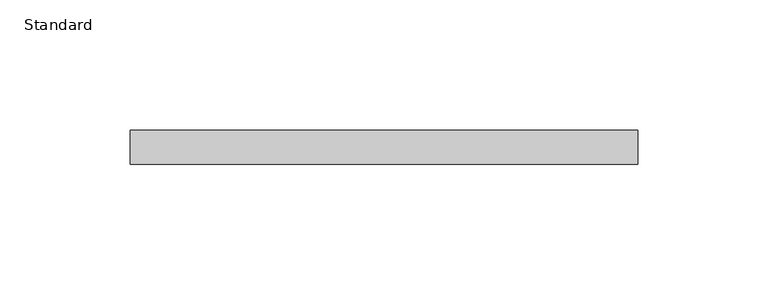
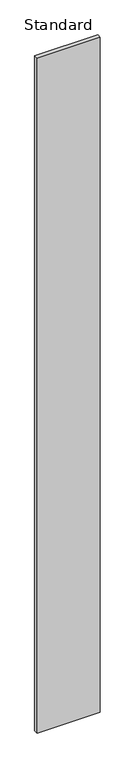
"""IFC4 building model written with IfcOpenShell, lengths in millimetres: furniture geometry, X_Partition-Compact Laminate-Duracube-Rectangular : Standard."""

from ifc_helpers import new_model, si_unit, frame, origin, place, context, project, spatial, polyline, outline, extrude, source, transform, mapped, element, save


def standard_ea3ccfe1(model_context):
    return source(origin(), model_context, "Body", "SweptSolid", [
        extrude(outline(polyline([(141.9503264, 0.0), (141.9503264, -13.0), (-52.5496736, -13.0), (-52.5496736, 0.0), (141.9503264, 0.0)])), frame((0.0, 0.0, 200.0), z_axis=(0.0, 0.0, 1.0), x_axis=(1.0, 0.0, 0.0)), (0.0, 0.0, 1.0), 2198.0),
    ])


if __name__ == "__main__":
    model = new_model("IFC4")
    model_context = context("Model", 3, world=origin())
    ifc_project = project(units=[si_unit("LENGTHUNIT", "METRE", prefix="MILLI")], contexts=[model_context])
    site = spatial("IfcSite", under=ifc_project)
    building = spatial("IfcBuilding", under=site)
    placement = place(None, origin())
    standard_shape = standard_ea3ccfe1(model_context)
    element("IfcFurniture", 1, ObjectType="X_Partition-Compact Laminate-Duracube-Rectangular : Standard", at=placement, inside=building, context=model_context, shape_type="MappedRepresentation", body=[
        mapped(standard_shape, transform((0.0, 0.0, 0.0), x_axis=(1.0, 0.0, 0.0), y_axis=(0.0, 1.0, 0.0), z_axis=(0.0, 0.0, 1.0))),
    ])
    save(model, "model.ifc")
